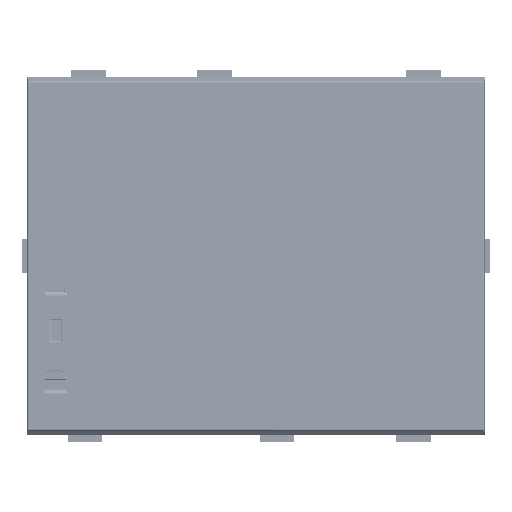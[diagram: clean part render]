
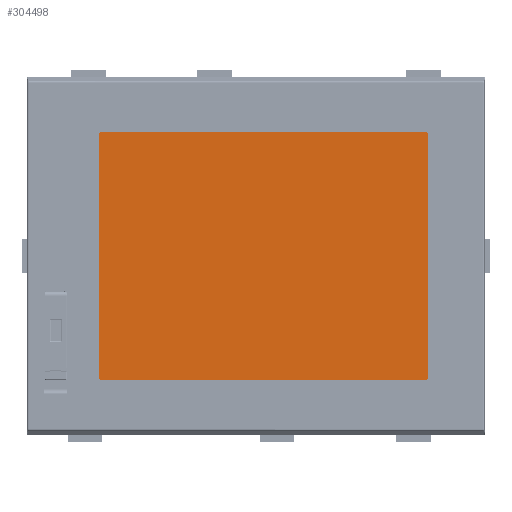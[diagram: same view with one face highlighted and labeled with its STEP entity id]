
A CAD part, top view. The second image highlights one B-rep face of the part: STEP entity #304498.
In plain terms, the highlighted planar face has unit normal (0, 0, 1).
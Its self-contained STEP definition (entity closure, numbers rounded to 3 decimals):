
#116708=CARTESIAN_POINT('',(-81.5,64.2,-0.1));
#116709=DIRECTION('',(0.,0.,-1.));
#116710=DIRECTION('',(-1.,0.,0.));
#116711=AXIS2_PLACEMENT_3D('',#116708,#116709,#116710);
#116713=DIRECTION('',(1.,0.,0.));
#116714=VECTOR('',#116713,171.);
#116715=CARTESIAN_POINT('',(-81.5,65.2,-0.1));
#116716=LINE('',#116715,#116714);
#116717=CARTESIAN_POINT('',(89.5,64.2,-0.1));
#116718=DIRECTION('',(0.,0.,-1.));
#116719=DIRECTION('',(0.,1.,0.));
#116720=AXIS2_PLACEMENT_3D('',#116717,#116718,#116719);
#116722=DIRECTION('',(0.,-1.,0.));
#116723=VECTOR('',#116722,128.4);
#116724=CARTESIAN_POINT('',(90.5,64.2,-0.1));
#116725=LINE('',#116724,#116723);
#116726=CARTESIAN_POINT('',(89.5,-64.2,-0.1));
#116727=DIRECTION('',(0.,0.,-1.));
#116728=DIRECTION('',(1.,0.,0.));
#116729=AXIS2_PLACEMENT_3D('',#116726,#116727,#116728);
#116731=DIRECTION('',(-1.,0.,0.));
#116732=VECTOR('',#116731,171.);
#116733=CARTESIAN_POINT('',(89.5,-65.2,-0.1));
#116734=LINE('',#116733,#116732);
#116735=CARTESIAN_POINT('',(-81.5,-64.2,-0.1));
#116736=DIRECTION('',(0.,0.,-1.));
#116737=DIRECTION('',(0.,-1.,0.));
#116738=AXIS2_PLACEMENT_3D('',#116735,#116736,#116737);
#116740=DIRECTION('',(0.,1.,0.));
#116741=VECTOR('',#116740,128.4);
#116742=CARTESIAN_POINT('',(-82.5,-64.2,-0.1));
#116743=LINE('',#116742,#116741);
#147885=CARTESIAN_POINT('',(-81.5,65.2,-0.1));
#147886=VERTEX_POINT('',#147885);
#147887=CARTESIAN_POINT('',(-82.5,64.2,-0.1));
#147888=VERTEX_POINT('',#147887);
#147889=CARTESIAN_POINT('',(89.5,65.2,-0.1));
#147890=VERTEX_POINT('',#147889);
#147891=CARTESIAN_POINT('',(90.5,64.2,-0.1));
#147892=VERTEX_POINT('',#147891);
#147893=CARTESIAN_POINT('',(90.5,-64.2,-0.1));
#147894=VERTEX_POINT('',#147893);
#147895=CARTESIAN_POINT('',(89.5,-65.2,-0.1));
#147896=VERTEX_POINT('',#147895);
#147897=CARTESIAN_POINT('',(-81.5,-65.2,-0.1));
#147898=VERTEX_POINT('',#147897);
#147899=CARTESIAN_POINT('',(-82.5,-64.2,-0.1));
#147900=VERTEX_POINT('',#147899);
#304483=CARTESIAN_POINT('',(0.,0.,-0.1));
#304484=DIRECTION('',(0.,0.,1.));
#304485=DIRECTION('',(1.,0.,0.));
#304486=AXIS2_PLACEMENT_3D('',#304483,#304484,#304485);
#304487=PLANE('',#304486);
#304488=ORIENTED_EDGE('',*,*,#304379,.T.);
#304489=ORIENTED_EDGE('',*,*,#304394,.T.);
#304490=ORIENTED_EDGE('',*,*,#304408,.T.);
#304491=ORIENTED_EDGE('',*,*,#304422,.T.);
#304492=ORIENTED_EDGE('',*,*,#304436,.T.);
#304493=ORIENTED_EDGE('',*,*,#304450,.T.);
#304494=ORIENTED_EDGE('',*,*,#304464,.T.);
#304495=ORIENTED_EDGE('',*,*,#304477,.T.);
#304496=EDGE_LOOP('',(#304488,#304489,#304490,#304491,#304492,#304493,#304494,
#304495));
#304497=FACE_OUTER_BOUND('',#304496,.F.);
#304498=ADVANCED_FACE('',(#304497),#304487,.T.);
#116712=CIRCLE('',#116711,1.);
#116721=CIRCLE('',#116720,1.);
#116730=CIRCLE('',#116729,1.);
#116739=CIRCLE('',#116738,1.);
#304379=EDGE_CURVE('',#147888,#147886,#116712,.T.);
#304394=EDGE_CURVE('',#147886,#147890,#116716,.T.);
#304408=EDGE_CURVE('',#147890,#147892,#116721,.T.);
#304422=EDGE_CURVE('',#147892,#147894,#116725,.T.);
#304436=EDGE_CURVE('',#147894,#147896,#116730,.T.);
#304450=EDGE_CURVE('',#147896,#147898,#116734,.T.);
#304464=EDGE_CURVE('',#147898,#147900,#116739,.T.);
#304477=EDGE_CURVE('',#147900,#147888,#116743,.T.);
